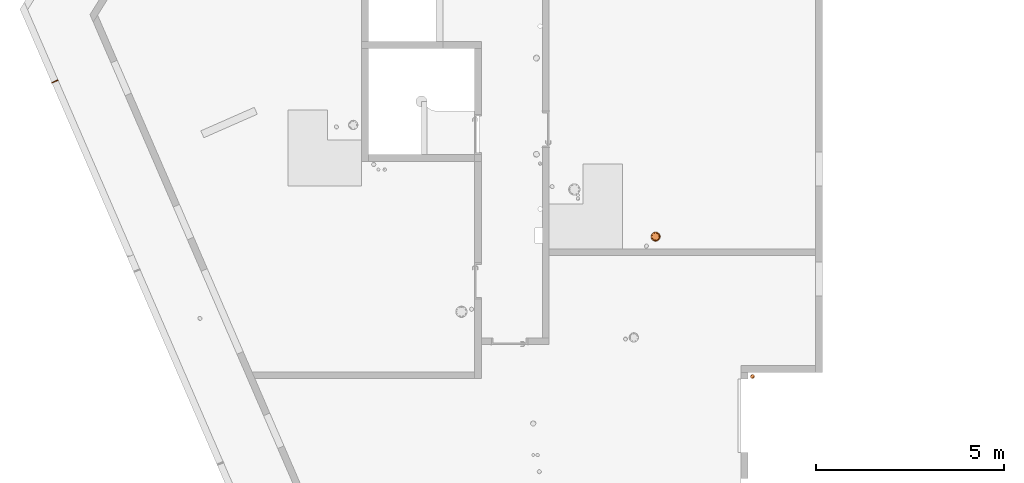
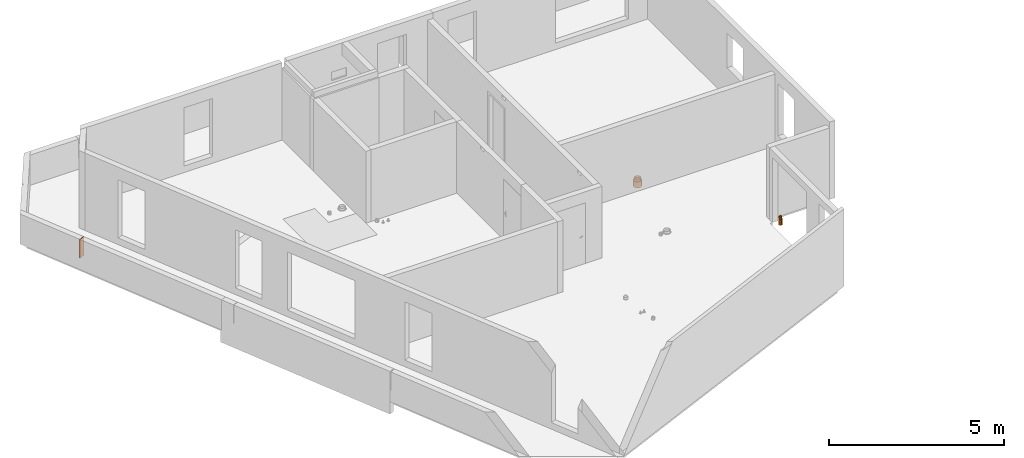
# One storey, part 21 of 28: 3 proxies.
"""IFC2X3 building model written with IfcOpenShell, lengths in centimetres."""

import ifcopenshell
import ifcopenshell.guid

model = None  # the IFC model being written
_history = None  # IfcOwnerHistory: only IFC2X3 demands one
_inside = {}  # id of a spatial element -> (the spatial element, [elements in it])
_under = {}  # id of a project, library or spatial element -> (it, [spatial elements below it])
_declared = {}  # id of a project -> (the project, [libraries it declares])
_typed = {}  # id of a type object -> (the type object, [elements of that type])
_made_of = {}  # id of a material, layer set ... -> (it, [elements and type objects made of it])


def new_model(schema):
    """Start an empty IFC model of exactly this schema.

    Asked for "IFC4X3", IfcOpenShell would pick the latest addendum, in which some entities
    have other attributes; the version numbers below select the first issue.
    IFC2X3 requires an IfcOwnerHistory on every rooted entity: one is made here for all.
    """
    global model, _history
    if schema == "IFC4X3":
        model = ifcopenshell.file(schema_version=(4, 3, 0, 0))
    else:
        model = ifcopenshell.file(schema=schema)
    _inside.clear()
    _under.clear()
    _declared.clear()
    _typed.clear()
    _made_of.clear()
    _history = None
    if model.schema == "IFC2X3":
        org = make("IfcOrganization", Name="unknown")
        user = make(
            "IfcPersonAndOrganization",
            ThePerson=make("IfcPerson", FamilyName="unknown"),
            TheOrganization=org,
        )
        app = make(
            "IfcApplication",
            ApplicationDeveloper=org,
            Version="unknown",
            ApplicationFullName="unknown",
            ApplicationIdentifier="unknown",
        )
        _history = make(
            "IfcOwnerHistory",
            OwningUser=user,
            OwningApplication=app,
            ChangeAction="ADDED",
            CreationDate=0,
        )
    return model


def make(cls, **values):
    """One entity of the class cls with the attributes given. An attribute that is None is left unset."""
    return model.create_entity(
        cls, **{name: value for name, value in values.items() if value is not None}
    )


def entity(cls, *values):
    """Any entity or typed value of the class cls, its attributes in the order of the schema. None: left unset."""
    e = model.create_entity(cls)
    for i, value in enumerate(values):
        if value is not None:
            e[i] = value
    return e


def rooted(cls, **values):
    """An entity with a GlobalId (a new one), such as an element, a storey or a relation."""
    return make(cls, GlobalId=ifcopenshell.guid.new(), OwnerHistory=_history, **values)


def si_unit(unit_type, name, prefix=None):
    """IfcSIUnit, for example si_unit("LENGTHUNIT", "METRE", prefix="MILLI")."""
    return make("IfcSIUnit", UnitType=unit_type, Prefix=prefix, Name=name)


def converted_unit(unit_type, name, factor, base, dimensions=None, offset=None):
    """IfcConversionBasedUnit, such as the inch: factor (a typed value) times the base unit."""
    return make(
        "IfcConversionBasedUnit"
        if offset is None
        else "IfcConversionBasedUnitWithOffset",
        ConversionOffset=offset,
        Dimensions=None
        if dimensions is None
        else entity("IfcDimensionalExponents", *dimensions),
        UnitType=unit_type,
        Name=name,
        ConversionFactor=make(
            "IfcMeasureWithUnit", ValueComponent=factor, UnitComponent=base
        ),
    )


def derived_unit(unit_type, elements):
    """IfcDerivedUnit: a product of units, each with its exponent."""
    return make(
        "IfcDerivedUnit",
        Elements=[
            make("IfcDerivedUnitElement", Unit=unit, Exponent=power)
            for unit, power in elements
        ],
        UnitType=unit_type,
    )


def assignment(units):
    """IfcUnitAssignment: the units of a project."""
    return None if units is None else make("IfcUnitAssignment", Units=units)


def point(xyz):
    """IfcCartesianPoint."""
    return None if xyz is None else make("IfcCartesianPoint", Coordinates=xyz)


def direction(xyz):
    """IfcDirection."""
    return None if xyz is None else make("IfcDirection", DirectionRatios=xyz)


def frame(location, z_axis=None, x_axis=None):
    """IfcAxis2Placement3D, a coordinate frame: its origin and axes. An axis left out is left unset."""
    return make(
        "IfcAxis2Placement3D",
        Location=point(location),
        Axis=direction(z_axis),
        RefDirection=direction(x_axis),
    )


def frame_2d(location, x_axis=None):
    """IfcAxis2Placement2D, a coordinate frame in the plane: its origin and x axis."""
    return make(
        "IfcAxis2Placement2D", Location=point(location), RefDirection=direction(x_axis)
    )


def origin():
    """The frame at (0, 0, 0) with its axes left unset."""
    return frame((0.0, 0.0, 0.0))


def place(relative_to, where):
    """IfcLocalPlacement: puts the frame where relative to a parent placement (None: the world)."""
    return make(
        "IfcLocalPlacement", PlacementRelTo=relative_to, RelativePlacement=where
    )


def context(
    kind, dimensions, precision=None, world=None, true_north=None, identifier=None
):
    """IfcGeometricRepresentationContext, for example the 3D "Model" context."""
    return make(
        "IfcGeometricRepresentationContext",
        ContextIdentifier=identifier,
        ContextType=kind,
        CoordinateSpaceDimension=dimensions,
        Precision=precision,
        WorldCoordinateSystem=world,
        TrueNorth=true_north,
    )


def subcontext(parent, identifier, kind, view, scale=None):
    """IfcGeometricRepresentationSubContext, for example "Body" below "Model"."""
    return make(
        "IfcGeometricRepresentationSubContext",
        ContextIdentifier=identifier,
        ContextType=kind,
        ParentContext=parent,
        TargetScale=scale,
        TargetView=view,
    )


def project(units=None, contexts=None):
    """IfcProject with its units and contexts."""
    return rooted(
        "IfcProject",
        Name="project",
        RepresentationContexts=contexts,
        UnitsInContext=assignment(units),
    )


def spatial(cls, under=None, at=None, **own):
    """A site, building, storey or space (cls), placed at a placement, below another one or the project."""
    s = rooted(cls, ObjectPlacement=at, **own)
    if under is not None:
        _under.setdefault(under.id(), (under, []))[1].append(s)
    return s


def profile(cls, at=None, kind="AREA", **sizes):
    """A parametric profile (cls). Its sizes go by their IFC names, for example OverallWidth=200.0."""
    return make(cls, ProfileType=kind, Position=at, **sizes)


def rectangle(**sizes):
    """IfcRectangleProfileDef."""
    return profile("IfcRectangleProfileDef", **sizes)


def circle(**sizes):
    """IfcCircleProfileDef."""
    return profile("IfcCircleProfileDef", **sizes)


def hollow_circle(**sizes):
    """IfcCircleHollowProfileDef."""
    return profile("IfcCircleHollowProfileDef", **sizes)


def extrude(swept, where, along, depth):
    """IfcExtrudedAreaSolid: the profile swept, set in the frame where, extruded along a direction by depth."""
    return make(
        "IfcExtrudedAreaSolid",
        SweptArea=swept,
        Position=where,
        ExtrudedDirection=direction(along),
        Depth=depth,
    )


def shape(context_of_items, identifier, shape_type, items):
    """IfcShapeRepresentation: the items that make up one representation, for example the "Body"."""
    return make(
        "IfcShapeRepresentation",
        ContextOfItems=context_of_items,
        RepresentationIdentifier=identifier,
        RepresentationType=shape_type,
        Items=items,
    )


def source(mapping_origin, context_of_items, identifier, shape_type, items):
    """IfcRepresentationMap: a shape defined once, which mapped items show again and again."""
    return make(
        "IfcRepresentationMap",
        MappingOrigin=mapping_origin,
        MappedRepresentation=shape(context_of_items, identifier, shape_type, items),
    )


def transform(
    local_origin,
    x_axis=None,
    y_axis=None,
    z_axis=None,
    scale=None,
    scale2=None,
    scale3=None,
    uniform=True,
):
    """IfcCartesianTransformationOperator3D, or its non-uniform kind. x_axis, y_axis, z_axis: its Axis1, 2, 3."""
    if uniform:
        return make(
            "IfcCartesianTransformationOperator3D",
            Axis1=direction(x_axis),
            Axis2=direction(y_axis),
            LocalOrigin=point(local_origin),
            Scale=scale,
            Axis3=direction(z_axis),
        )
    return make(
        "IfcCartesianTransformationOperator3DnonUniform",
        Axis1=direction(x_axis),
        Axis2=direction(y_axis),
        LocalOrigin=point(local_origin),
        Scale=scale,
        Axis3=direction(z_axis),
        Scale2=scale2,
        Scale3=scale3,
    )


def mapped(mapping_source, mapping_target):
    """IfcMappedItem: shows the shape of a source again, moved by a transform."""
    return make(
        "IfcMappedItem", MappingSource=mapping_source, MappingTarget=mapping_target
    )


def material(Name=None, Category=None):
    """IfcMaterial."""
    return make("IfcMaterial", Name=Name, Category=Category)


def made_of(thing, what):
    """Note that an element or type object is made of a material, layer set ...; save() writes the relation."""
    if what is not None:
        _made_of.setdefault(what.id(), (what, []))[1].append(thing)
    return thing


def type_object(cls, material=None, **own):
    """A type object (cls), such as IfcWallType, which elements share."""
    return made_of(rooted(cls, **own), material)


def type_shapes(of_type, sources):
    """Give a type object the sources (RepresentationMaps) that its elements show as mapped items."""
    of_type.RepresentationMaps = sources


def element(
    cls,
    number,
    at=None,
    inside=None,
    cuts=None,
    type_object=None,
    material=None,
    context=None,
    identifier="Body",
    shape_type=None,
    held_by="IfcProductDefinitionShape",
    body=None,
    shapes=None,
    **own,
):
    """One element of the class cls, such as IfcWall. Its Tag is "e" and its number.

    at: its placement. inside: the storey or other place that contains it. cuts: it is an
    opening in that element (IfcRelVoidsElement). A single representation is given by context,
    identifier, shape_type and body (its items); several are given by shapes. held_by: the class
    of the entity that holds the representations. save() writes the other relations.
    """
    e = rooted(cls, Tag="e%d" % number, ObjectPlacement=at, **own)
    if body is not None:
        shapes = [shape(context, identifier, shape_type, body)]
    if shapes is not None:
        e.Representation = make(held_by, Representations=shapes)
    if inside is not None:
        _inside.setdefault(inside.id(), (inside, []))[1].append(e)
    if cuts is not None:
        rooted(
            "IfcRelVoidsElement", RelatingBuildingElement=cuts, RelatedOpeningElement=e
        )
    if type_object is not None:
        _typed.setdefault(type_object.id(), (type_object, []))[1].append(e)
    return made_of(e, material)


def aggregate(whole, parts):
    """IfcRelAggregates: a whole, such as a stair, and the parts it consists of."""
    return rooted("IfcRelAggregates", RelatingObject=whole, RelatedObjects=parts)


def save(model, path):
    """Write the relations noted so far, then the file.

    IfcRelAggregates (storeys below a building ...), IfcRelContainedInSpatialStructure (elements
    in a storey), IfcRelDefinesByType, IfcRelAssociatesMaterial and IfcRelDeclares: one each for
    every whole, place, type object, material and project.
    """
    for whole, parts in _under.values():
        aggregate(whole, parts)
    for where, things in _inside.values():
        rooted(
            "IfcRelContainedInSpatialStructure",
            RelatedElements=things,
            RelatingStructure=where,
        )
    for kind, things in _typed.values():
        rooted("IfcRelDefinesByType", RelatedObjects=things, RelatingType=kind)
    for what, things in _made_of.values():
        rooted("IfcRelAssociatesMaterial", RelatedObjects=things, RelatingMaterial=what)
    for by, libraries in _declared.values():
        rooted("IfcRelDeclares", RelatingContext=by, RelatedDefinitions=libraries)
    model.write(path)


model = new_model("IFC2X3")

# Units and contexts
model_context = context("Model", 3, precision=0.001, world=origin(), true_north=direction((6.12303176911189e-17, 1.0)))
body_context = subcontext(model_context, "Body", "Model", "MODEL_VIEW")
ifc_project = project(units=[si_unit("LENGTHUNIT", "METRE", prefix="CENTI"), si_unit("AREAUNIT", "SQUARE_METRE"), si_unit("VOLUMEUNIT", "CUBIC_METRE"), converted_unit("PLANEANGLEUNIT", "DEGREE", entity("IfcRatioMeasure", 0.0174532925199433), si_unit("PLANEANGLEUNIT", "RADIAN"), dimensions=[0, 0, 0, 0, 0, 0, 0]), si_unit("MASSUNIT", "GRAM", prefix="KILO"), derived_unit("MASSDENSITYUNIT", [(si_unit("MASSUNIT", "GRAM", prefix="KILO"), 1), (si_unit("LENGTHUNIT", "METRE"), -3)]), si_unit("TIMEUNIT", "SECOND"), si_unit("FREQUENCYUNIT", "HERTZ"), si_unit("THERMODYNAMICTEMPERATUREUNIT", "DEGREE_CELSIUS"), derived_unit("THERMALTRANSMITTANCEUNIT", [(si_unit("MASSUNIT", "GRAM", prefix="KILO"), 1), (si_unit("THERMODYNAMICTEMPERATUREUNIT", "KELVIN"), -1), (si_unit("TIMEUNIT", "SECOND"), -3)]), derived_unit("VOLUMETRICFLOWRATEUNIT", [(si_unit("LENGTHUNIT", "METRE"), 3), (si_unit("TIMEUNIT", "SECOND"), -1)]), si_unit("ELECTRICCURRENTUNIT", "AMPERE"), si_unit("ELECTRICVOLTAGEUNIT", "VOLT"), si_unit("POWERUNIT", "WATT"), si_unit("FORCEUNIT", "NEWTON"), si_unit("ILLUMINANCEUNIT", "LUX"), si_unit("LUMINOUSFLUXUNIT", "LUMEN"), si_unit("LUMINOUSINTENSITYUNIT", "CANDELA"), derived_unit("USERDEFINED", [(si_unit("MASSUNIT", "GRAM", prefix="KILO"), -1), (si_unit("LENGTHUNIT", "METRE"), -2), (si_unit("TIMEUNIT", "SECOND"), 3), (si_unit("LUMINOUSFLUXUNIT", "LUMEN"), 1)]), derived_unit("LINEARVELOCITYUNIT", [(si_unit("LENGTHUNIT", "METRE"), 1), (si_unit("TIMEUNIT", "SECOND"), -1)]), si_unit("PRESSUREUNIT", "PASCAL"), derived_unit("USERDEFINED", [(si_unit("LENGTHUNIT", "METRE"), -2), (si_unit("MASSUNIT", "GRAM", prefix="KILO"), 1), (si_unit("TIMEUNIT", "SECOND"), -2)])], contexts=[model_context])

# Site, building, storey
site_placement = place(None, origin())
site = spatial("IfcSite", under=ifc_project, at=site_placement, Name="Default", CompositionType="ELEMENT")
building_placement = place(site_placement, origin())
building = spatial("IfcBuilding", under=site, at=building_placement, Name="CAGE 03", CompositionType="ELEMENT")
storey_placement = place(building_placement, frame((0.0, 0.0, 1420.0)))
storey = spatial("IfcBuildingStorey", under=building, at=storey_placement, Name="R+5", CompositionType="ELEMENT", Elevation=1420.0)

# Proxies
ifc_material_1 = material(Name="BBGO_Résa")
building_element_proxy_type_1 = type_object("IfcBuildingElementProxyType", Name="J.F.", PredefinedType="NOTDEFINED", material=ifc_material_1)
shared_shape_1 = source(origin(), body_context, "Body", "SweptSolid", [
    extrude(rectangle(XDim=1.99999999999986, YDim=18.0, at=frame_2d((7.95030707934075e-13, -3.43725048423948e-13), x_axis=(1.0, 0.0))), frame((2839.847945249, 4845.03804348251, 1460.0), z_axis=(0.0, 0.0, 1.0), x_axis=(0.397106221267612, -0.917772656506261, 0.0)), (0.0, 0.0, 1.0), 64.9999999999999),
])
type_shapes(building_element_proxy_type_1, [shared_shape_1])
proxy_1_placement = place(storey_placement, frame((0.0, 0.0, -1420.0)))
element("IfcBuildingElementProxy", 1, at=proxy_1_placement, inside=storey, type_object=building_element_proxy_type_1, material=ifc_material_1, Name="BBGO-Résa rect et circ:J.F.", ObjectType="J.F.", context=body_context, shape_type="MappedRepresentation", body=[
    mapped(shared_shape_1, transform((0.0, 0.0, 0.0), scale=1.0)),
])
ifc_material_2 = material(Name="Conduit VMC")
building_element_proxy_type_2 = type_object("IfcBuildingElementProxyType", Name="CFO235 P210", PredefinedType="NOTDEFINED", material=ifc_material_2)
shared_shape_2 = source(origin(), body_context, "Body", "SweptSolid", [
    extrude(circle(Radius=12.5, at=frame_2d((0.0, -2.01943071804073e-14), x_axis=(1.0, 0.0))), frame((0.0, 0.0, -21.0)), (0.0, 0.0, 1.0), 21.0),
    extrude(hollow_circle(Radius=10.0, WallThickness=0.5, at=frame_2d((0.0, -1.61554457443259e-14), x_axis=(1.0, 0.0))), frame((0.0, 0.0, -21.0)), (0.0, 0.0, 1.0), 28.5),
])
type_shapes(building_element_proxy_type_2, [shared_shape_2])
proxy_2_placement = place(storey_placement, frame((4435.39443367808, 4432.79159406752, 0.0)))
element("IfcBuildingElementProxy", 2, at=proxy_2_placement, inside=storey, type_object=building_element_proxy_type_2, material=ifc_material_2, Name="Galette - Résa - PVC4:CFO235 P210", ObjectType="CFO235 P210", context=body_context, shape_type="MappedRepresentation", body=[
    mapped(shared_shape_2, transform((0.0, 0.0, 0.0), scale=1.0)),
])
ifc_material_3 = material(Name="Conduit EP")
building_element_proxy_type_3 = type_object("IfcBuildingElementProxyType", Name="EP 101", PredefinedType="NOTDEFINED", material=ifc_material_3)
shared_shape_3 = source(origin(), body_context, "Body", "SweptSolid", [
    extrude(circle(Radius=5.5, at=frame_2d((0.0, -8.88549515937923e-15), x_axis=(1.0, 0.0))), frame((0.0, 0.0, -21.0)), (0.0, 0.0, 1.0), 21.0),
    extrude(hollow_circle(Radius=5.0, WallThickness=0.25, at=frame_2d((0.0, -8.07772287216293e-15), x_axis=(1.0, 0.0))), frame((0.0, 0.0, -21.0)), (0.0, 0.0, 1.0), 28.5),
])
type_shapes(building_element_proxy_type_3, [shared_shape_3])
proxy_3_placement = place(storey_placement, frame((4692.5947420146, 4061.40163388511, 0.0)))
element("IfcBuildingElementProxy", 3, at=proxy_3_placement, inside=storey, type_object=building_element_proxy_type_3, material=ifc_material_3, Name="Galette - Résa - PVC4:EP 101", ObjectType="EP 101", context=body_context, shape_type="MappedRepresentation", body=[
    mapped(shared_shape_3, transform((0.0, 0.0, 0.0), scale=1.0)),
])

save(model, "model.ifc")
